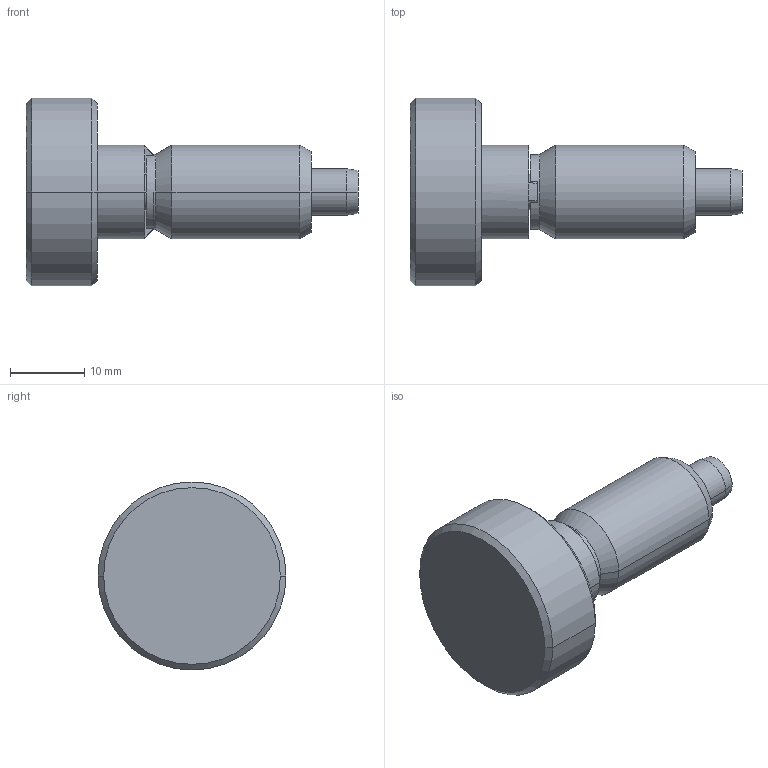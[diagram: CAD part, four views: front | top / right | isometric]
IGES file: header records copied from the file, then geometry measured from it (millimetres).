
Start section:  PTC IGES file: sl500-part.igs
Global section: file name: sl500-part.igs; native system: Pro/ENGINEER by Parametric Technology Corporation; preprocessor: 2002350; author: chant; organization: Unknown; date: 061214.153144; units: inch
Bounding box: 44.86 x 25.4 x 25.4 mm (x, y, z)
Surface area: 4032.5 mm2 (no closed solid volume)
Topology: 0 solids, 0 shells, 54 faces, 347 edges, 431 vertices
Faces by surface type: revolution 32, bspline 22
